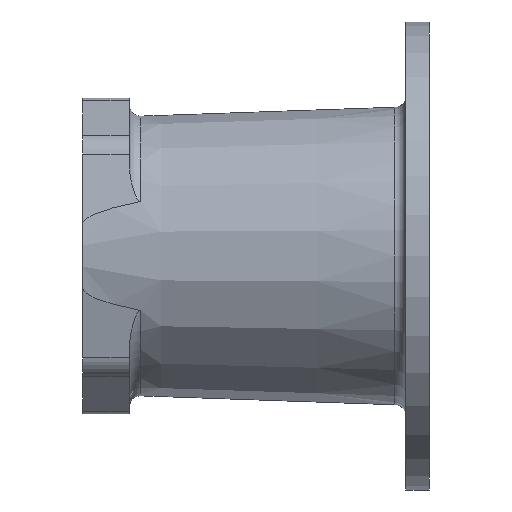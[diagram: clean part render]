
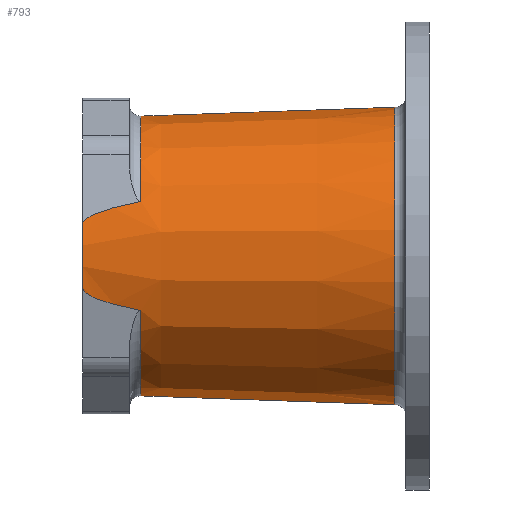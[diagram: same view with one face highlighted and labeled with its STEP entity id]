
A CAD part, left-side view. The second image highlights one B-rep face of the part: STEP entity #793.
In plain terms, the highlighted conical face has half-angle 2 degrees and reference radius 56.111 mm.
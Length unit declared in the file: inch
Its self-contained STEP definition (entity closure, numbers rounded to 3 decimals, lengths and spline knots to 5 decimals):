
#24 = DIRECTION ( 'NONE',  ( 0., -1., 0. ) ) ;
#113 = CARTESIAN_POINT ( 'NONE',  ( -2.15122, 5.56, 0.50241 ) ) ;
#211 = CARTESIAN_POINT ( 'NONE',  ( -2.13373, 5.52202, -0.57731 ) ) ;
#240 = CARTESIAN_POINT ( 'NONE',  ( -2.08686, 5.04704, -0.77798 ) ) ;
#250 = DIRECTION ( 'NONE',  ( 0., -1., 0. ) ) ;
#356 = CARTESIAN_POINT ( 'NONE',  ( -2.11493, 5.39568, 0.65781 ) ) ;
#384 = EDGE_CURVE ( 'NONE', #3335, #1139, #808, .T. ) ;
#484 = ORIENTED_EDGE ( 'NONE', *, *, #6683, .T. ) ;
#485 = EDGE_CURVE ( 'NONE', #5374, #2286, #1965, .T. ) ;
#531 = ORIENTED_EDGE ( 'NONE', *, *, #485, .F. ) ;
#697 = CARTESIAN_POINT ( 'NONE',  ( -2.15122, 5.56, -0.50241 ) ) ;
#709 = CARTESIAN_POINT ( 'NONE',  ( 0., 5.56, 0. ) ) ;
#775 = CARTESIAN_POINT ( 'NONE',  ( -2.14869, 5.56, -0.51325 ) ) ;
#793 = ADVANCED_FACE ( 'NONE', ( #2379 ), #983, .T. ) ;
#802 = CARTESIAN_POINT ( 'NONE',  ( -2.12882, 5.4974, -0.59834 ) ) ;
#808 = B_SPLINE_CURVE_WITH_KNOTS ( 'NONE', 3,
 ( #1900, #6456, #3962, #5513, #2412, #6016, #2915, #6497, #3445, #356, #3987, #919, #4570, #1412, #5055, #1921, #5541, #2432, #6030, #2937, #6522, #3465 ),
 .UNSPECIFIED., .F., .F.,
 ( 4, 2, 2, 2, 2, 2, 2, 2, 2, 2, 4 ),
 ( -0.00484, 0.00179, 0.00842, 0.01173, 0.01505, 0.01671, 0.01836, 0.01919, 0.02002, 0.02085, 0.02168 ),
 .UNSPECIFIED. ) ;
#822 = CARTESIAN_POINT ( 'NONE',  ( -2.07266, 4.79389, -0.83878 ) ) ;
#887 = B_SPLINE_CURVE_WITH_KNOTS ( 'NONE', 3,
 ( #5889, #775, #2299, #2794, #6386, #3324, #211, #3856, #802, #4431, #1294, #4945, #1803, #5426, #2317, #5918, #2815, #6407, #3349, #240, #3882, #822, #4459, #1315 ),
 .UNSPECIFIED., .F., .F.,
 ( 4, 2, 2, 2, 2, 2, 2, 2, 2, 2, 2, 4 ),
 ( 0., 0.00083, 0.00167, 0.0025, 0.00333, 0.00417, 0.005, 0.00667, 0.01, 0.01333, 0.02, 0.02667 ),
 .UNSPECIFIED. ) ;
#897 = ORIENTED_EDGE ( 'NONE', *, *, #3822, .T. ) ;
#916 = EDGE_LOOP ( 'NONE', ( #531, #2326, #5834, #4066, #6498, #897, #4393, #484 ) ) ;
#919 = CARTESIAN_POINT ( 'NONE',  ( -2.12192, 5.45322, 0.62787 ) ) ;
#983 = CONICAL_SURFACE ( 'NONE', #2870, 2.20911, 0.035 ) ;
#1131 = EDGE_CURVE ( 'NONE', #1139, #4675, #3022, .T. ) ;
#1139 = VERTEX_POINT ( 'NONE', #113 ) ;
#1157 = AXIS2_PLACEMENT_3D ( 'NONE', #3356, #250, #3889 ) ;
#1214 = DIRECTION ( 'NONE',  ( 0., 0., -1. ) ) ;
#1256 = VECTOR ( 'NONE', #2726, 39.37008 ) ;
#1294 = CARTESIAN_POINT ( 'NONE',  ( -2.12447, 5.4706, -0.61695 ) ) ;
#1315 = CARTESIAN_POINT ( 'NONE',  ( -2.06446, 4.62372, -0.87389 ) ) ;
#1370 = DIRECTION ( 'NONE',  ( 0., 1., 0. ) ) ;
#1403 = CIRCLE ( 'NONE', #1157, 2.24181 ) ;
#1408 = AXIS2_PLACEMENT_3D ( 'NONE', #3138, #24, #3678 ) ;
#1412 = CARTESIAN_POINT ( 'NONE',  ( -2.12891, 5.49791, 0.59794 ) ) ;
#1484 = DIRECTION ( 'NONE',  ( 0., 0., -1. ) ) ;
#1803 = CARTESIAN_POINT ( 'NONE',  ( -2.12059, 5.44269, -0.63357 ) ) ;
#1900 = CARTESIAN_POINT ( 'NONE',  ( -2.06446, 4.62372, 0.87389 ) ) ;
#1917 = CARTESIAN_POINT ( 'NONE',  ( 0., 0.55372, -2.38393 ) ) ;
#1921 = CARTESIAN_POINT ( 'NONE',  ( -2.13381, 5.52235, 0.57698 ) ) ;
#1965 = LINE ( 'NONE', #4661, #5898 ) ;
#2002 = DIRECTION ( 'NONE',  ( 0., -1., 0. ) ) ;
#2232 = CARTESIAN_POINT ( 'NONE',  ( 0., 5.56, -2.20911 ) ) ;
#2286 = VERTEX_POINT ( 'NONE', #4786 ) ;
#2299 = CARTESIAN_POINT ( 'NONE',  ( -2.14624, 5.55757, -0.52373 ) ) ;
#2317 = CARTESIAN_POINT ( 'NONE',  ( -2.11483, 5.39474, -0.65825 ) ) ;
#2326 = ORIENTED_EDGE ( 'NONE', *, *, #3949, .T. ) ;
#2379 = FACE_OUTER_BOUND ( 'NONE', #916, .T. ) ;
#2393 = CARTESIAN_POINT ( 'NONE',  ( -2.06446, 4.62372, 0.87389 ) ) ;
#2412 = CARTESIAN_POINT ( 'NONE',  ( -2.08689, 5.04744, 0.77788 ) ) ;
#2432 = CARTESIAN_POINT ( 'NONE',  ( -2.13953, 5.54335, 0.55248 ) ) ;
#2488 = CARTESIAN_POINT ( 'NONE',  ( 0., 5.56, 0. ) ) ;
#2638 = EDGE_CURVE ( 'NONE', #4675, #6285, #887, .T. ) ;
#2726 = DIRECTION ( 'NONE',  ( 0., -0.999, -0.035 ) ) ;
#2743 = AXIS2_PLACEMENT_3D ( 'NONE', #709, #4329, #1214 ) ;
#2794 = CARTESIAN_POINT ( 'NONE',  ( -2.14159, 5.54906, -0.54363 ) ) ;
#2815 = CARTESIAN_POINT ( 'NONE',  ( -2.10509, 5.29523, -0.69994 ) ) ;
#2870 = AXIS2_PLACEMENT_3D ( 'NONE', #2488, #2002, #1484 ) ;
#2915 = CARTESIAN_POINT ( 'NONE',  ( -2.09849, 5.2138, 0.72822 ) ) ;
#2937 = CARTESIAN_POINT ( 'NONE',  ( -2.14624, 5.55754, 0.52375 ) ) ;
#3022 = CIRCLE ( 'NONE', #2743, 2.20911 ) ;
#3063 = CARTESIAN_POINT ( 'NONE',  ( 0., 4.62372, -2.24181 ) ) ;
#3138 = CARTESIAN_POINT ( 'NONE',  ( 0., 4.62372, 0. ) ) ;
#3324 = CARTESIAN_POINT ( 'NONE',  ( -2.13554, 5.52966, -0.56957 ) ) ;
#3335 = VERTEX_POINT ( 'NONE', #2393 ) ;
#3349 = CARTESIAN_POINT ( 'NONE',  ( -2.09541, 5.17186, -0.74138 ) ) ;
#3356 = CARTESIAN_POINT ( 'NONE',  ( 0., 4.62372, 0. ) ) ;
#3445 = CARTESIAN_POINT ( 'NONE',  ( -2.10874, 5.33633, 0.68432 ) ) ;
#3465 = CARTESIAN_POINT ( 'NONE',  ( -2.15122, 5.56, 0.50241 ) ) ;
#3496 = VERTEX_POINT ( 'NONE', #3063 ) ;
#3607 = AXIS2_PLACEMENT_3D ( 'NONE', #4518, #1370, #5013 ) ;
#3657 = CIRCLE ( 'NONE', #3607, 2.38393 ) ;
#3678 = DIRECTION ( 'NONE',  ( 0., 0., 1. ) ) ;
#3822 = EDGE_CURVE ( 'NONE', #6285, #3496, #6139, .T. ) ;
#3856 = CARTESIAN_POINT ( 'NONE',  ( -2.13038, 5.50592, -0.59167 ) ) ;
#3882 = CARTESIAN_POINT ( 'NONE',  ( -2.08188, 4.96295, -0.7993 ) ) ;
#3889 = DIRECTION ( 'NONE',  ( 0., 0., 1. ) ) ;
#3949 = EDGE_CURVE ( 'NONE', #5374, #3335, #1403, .T. ) ;
#3962 = CARTESIAN_POINT ( 'NONE',  ( -2.07267, 4.79399, 0.83876 ) ) ;
#3987 = CARTESIAN_POINT ( 'NONE',  ( -2.11712, 5.41517, 0.64842 ) ) ;
#4014 = LINE ( 'NONE', #2232, #1256 ) ;
#4066 = ORIENTED_EDGE ( 'NONE', *, *, #1131, .T. ) ;
#4329 = DIRECTION ( 'NONE',  ( 0., -1., 0. ) ) ;
#4393 = ORIENTED_EDGE ( 'NONE', *, *, #6597, .T. ) ;
#4431 = CARTESIAN_POINT ( 'NONE',  ( -2.12587, 5.47975, -0.61098 ) ) ;
#4459 = CARTESIAN_POINT ( 'NONE',  ( -2.06844, 4.70891, -0.85686 ) ) ;
#4518 = CARTESIAN_POINT ( 'NONE',  ( 0., 0.55372, 0. ) ) ;
#4570 = CARTESIAN_POINT ( 'NONE',  ( -2.12452, 5.47179, 0.61673 ) ) ;
#4661 = CARTESIAN_POINT ( 'NONE',  ( 0., 5.56, 2.20911 ) ) ;
#4675 = VERTEX_POINT ( 'NONE', #697 ) ;
#4786 = CARTESIAN_POINT ( 'NONE',  ( 0., 0.55372, 2.38393 ) ) ;
#4935 = CARTESIAN_POINT ( 'NONE',  ( 0., 4.62372, 2.24181 ) ) ;
#4945 = CARTESIAN_POINT ( 'NONE',  ( -2.12184, 5.45209, -0.62824 ) ) ;
#4957 = CARTESIAN_POINT ( 'NONE',  ( -2.06446, 4.62372, -0.87389 ) ) ;
#5013 = DIRECTION ( 'NONE',  ( 0., 0., -1. ) ) ;
#5055 = CARTESIAN_POINT ( 'NONE',  ( -2.13046, 5.50634, 0.59132 ) ) ;
#5374 = VERTEX_POINT ( 'NONE', #4935 ) ;
#5426 = CARTESIAN_POINT ( 'NONE',  ( -2.11701, 5.41417, -0.64891 ) ) ;
#5513 = CARTESIAN_POINT ( 'NONE',  ( -2.0819, 4.9632, 0.79924 ) ) ;
#5541 = CARTESIAN_POINT ( 'NONE',  ( -2.13562, 5.52997, 0.56923 ) ) ;
#5623 = DIRECTION ( 'NONE',  ( 0., -0.999, 0.035 ) ) ;
#5834 = ORIENTED_EDGE ( 'NONE', *, *, #384, .T. ) ;
#5889 = CARTESIAN_POINT ( 'NONE',  ( -2.15122, 5.56, -0.50241 ) ) ;
#5898 = VECTOR ( 'NONE', #5623, 39.37008 ) ;
#5918 = CARTESIAN_POINT ( 'NONE',  ( -2.10868, 5.33565, -0.68458 ) ) ;
#6016 = CARTESIAN_POINT ( 'NONE',  ( -2.09545, 5.1724, 0.74121 ) ) ;
#6030 = CARTESIAN_POINT ( 'NONE',  ( -2.14167, 5.54922, 0.5433 ) ) ;
#6139 = CIRCLE ( 'NONE', #1408, 2.24181 ) ;
#6285 = VERTEX_POINT ( 'NONE', #4957 ) ;
#6364 = VERTEX_POINT ( 'NONE', #1917 ) ;
#6386 = CARTESIAN_POINT ( 'NONE',  ( -2.13949, 5.54323, -0.55265 ) ) ;
#6407 = CARTESIAN_POINT ( 'NONE',  ( -2.09845, 5.2133, -0.72838 ) ) ;
#6456 = CARTESIAN_POINT ( 'NONE',  ( -2.06844, 4.70896, 0.85685 ) ) ;
#6497 = CARTESIAN_POINT ( 'NONE',  ( -2.10514, 5.29579, 0.69973 ) ) ;
#6498 = ORIENTED_EDGE ( 'NONE', *, *, #2638, .T. ) ;
#6522 = CARTESIAN_POINT ( 'NONE',  ( -2.14871, 5.56, 0.51315 ) ) ;
#6597 = EDGE_CURVE ( 'NONE', #3496, #6364, #4014, .T. ) ;
#6683 = EDGE_CURVE ( 'NONE', #6364, #2286, #3657, .T. ) ;
